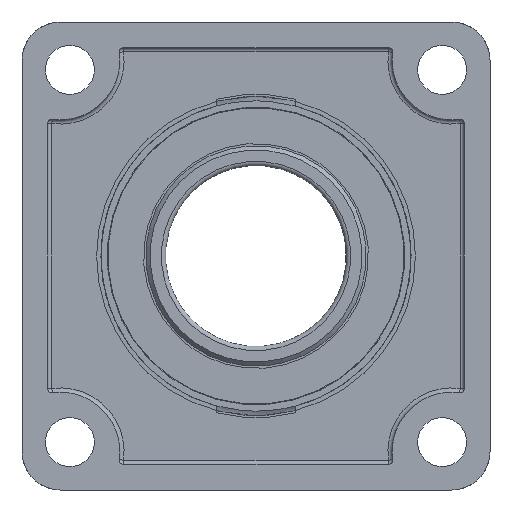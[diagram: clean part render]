
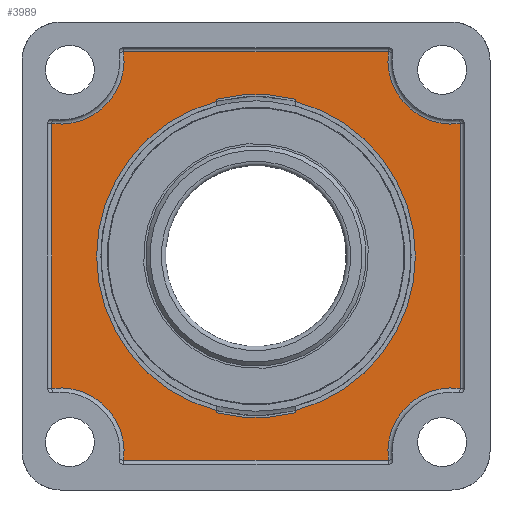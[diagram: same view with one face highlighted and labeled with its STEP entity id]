
A CAD part, front view. The second image highlights one B-rep face of the part: STEP entity #3989.
In plain terms, the highlighted planar face has unit normal (0, -1, 0).
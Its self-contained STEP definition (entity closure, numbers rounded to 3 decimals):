
#230=FACE_BOUND('',#582,.T.);
#345=FACE_OUTER_BOUND('',#581,.T.);
#581=EDGE_LOOP('',(#2641,#2642,#2643,#2644,#2645,#2646,#2647,#2648));
#582=EDGE_LOOP('',(#2649,#2650,#2651,#2652,#2653,#2654,#2655,#2656));
#853=CIRCLE('',#4306,76.);
#856=CIRCLE('',#4311,30.);
#857=CIRCLE('',#4312,30.);
#858=CIRCLE('',#4313,30.);
#859=CIRCLE('',#4314,30.);
#860=CIRCLE('',#4315,74.93);
#861=CIRCLE('',#4316,76.);
#862=CIRCLE('',#4317,74.93);
#1240=LINE('',#6343,#1390);
#1248=LINE('',#6363,#1398);
#1249=LINE('',#6372,#1399);
#1250=LINE('',#6376,#1400);
#1251=LINE('',#6380,#1401);
#1252=LINE('',#6384,#1402);
#1253=LINE('',#6389,#1403);
#1254=LINE('',#6393,#1404);
#1390=VECTOR('',#4935,10.);
#1398=VECTOR('',#4949,10.);
#1399=VECTOR('',#4962,10.);
#1400=VECTOR('',#4965,10.);
#1401=VECTOR('',#4968,10.);
#1402=VECTOR('',#4971,10.);
#1403=VECTOR('',#4976,10.);
#1404=VECTOR('',#4979,10.);
#1539=VERTEX_POINT('',#6339);
#1541=VERTEX_POINT('',#6342);
#1546=VERTEX_POINT('',#6353);
#1550=VERTEX_POINT('',#6361);
#1551=VERTEX_POINT('',#6370);
#1552=VERTEX_POINT('',#6371);
#1553=VERTEX_POINT('',#6373);
#1554=VERTEX_POINT('',#6375);
#1555=VERTEX_POINT('',#6377);
#1556=VERTEX_POINT('',#6379);
#1557=VERTEX_POINT('',#6381);
#1558=VERTEX_POINT('',#6383);
#1559=VERTEX_POINT('',#6386);
#1560=VERTEX_POINT('',#6388);
#1561=VERTEX_POINT('',#6390);
#1562=VERTEX_POINT('',#6392);
#1986=EDGE_CURVE('',#1541,#1539,#1240,.T.);
#1996=EDGE_CURVE('',#1546,#1550,#1248,.T.);
#1997=EDGE_CURVE('',#1550,#1541,#853,.T.);
#2000=EDGE_CURVE('',#1551,#1552,#1249,.T.);
#2001=EDGE_CURVE('',#1553,#1551,#856,.T.);
#2002=EDGE_CURVE('',#1554,#1553,#1250,.T.);
#2003=EDGE_CURVE('',#1555,#1554,#857,.T.);
#2004=EDGE_CURVE('',#1556,#1555,#1251,.T.);
#2005=EDGE_CURVE('',#1557,#1556,#858,.T.);
#2006=EDGE_CURVE('',#1558,#1557,#1252,.T.);
#2007=EDGE_CURVE('',#1552,#1558,#859,.T.);
#2008=EDGE_CURVE('',#1559,#1539,#860,.T.);
#2009=EDGE_CURVE('',#1559,#1560,#1253,.T.);
#2010=EDGE_CURVE('',#1560,#1561,#861,.T.);
#2011=EDGE_CURVE('',#1561,#1562,#1254,.T.);
#2012=EDGE_CURVE('',#1546,#1562,#862,.T.);
#2641=ORIENTED_EDGE('',*,*,#2000,.F.);
#2642=ORIENTED_EDGE('',*,*,#2001,.F.);
#2643=ORIENTED_EDGE('',*,*,#2002,.F.);
#2644=ORIENTED_EDGE('',*,*,#2003,.F.);
#2645=ORIENTED_EDGE('',*,*,#2004,.F.);
#2646=ORIENTED_EDGE('',*,*,#2005,.F.);
#2647=ORIENTED_EDGE('',*,*,#2006,.F.);
#2648=ORIENTED_EDGE('',*,*,#2007,.F.);
#2649=ORIENTED_EDGE('',*,*,#1996,.T.);
#2650=ORIENTED_EDGE('',*,*,#1997,.T.);
#2651=ORIENTED_EDGE('',*,*,#1986,.T.);
#2652=ORIENTED_EDGE('',*,*,#2008,.F.);
#2653=ORIENTED_EDGE('',*,*,#2009,.T.);
#2654=ORIENTED_EDGE('',*,*,#2010,.T.);
#2655=ORIENTED_EDGE('',*,*,#2011,.T.);
#2656=ORIENTED_EDGE('',*,*,#2012,.F.);
#3896=PLANE('',#4310);
#3989=ADVANCED_FACE('',(#345,#230),#3896,.T.);
#4306=AXIS2_PLACEMENT_3D('',#6365,#4952,#4953);
#4310=AXIS2_PLACEMENT_3D('',#6369,#4960,#4961);
#4311=AXIS2_PLACEMENT_3D('',#6374,#4963,#4964);
#4312=AXIS2_PLACEMENT_3D('',#6378,#4966,#4967);
#4313=AXIS2_PLACEMENT_3D('',#6382,#4969,#4970);
#4314=AXIS2_PLACEMENT_3D('',#6385,#4972,#4973);
#4315=AXIS2_PLACEMENT_3D('',#6387,#4974,#4975);
#4316=AXIS2_PLACEMENT_3D('',#6391,#4977,#4978);
#4317=AXIS2_PLACEMENT_3D('',#6394,#4980,#4981);
#4935=DIRECTION('',(0.,0.,1.));
#4949=DIRECTION('',(0.,0.,-1.));
#4952=DIRECTION('center_axis',(0.,1.,0.));
#4953=DIRECTION('ref_axis',(0.243,0.,-0.97));
#4960=DIRECTION('center_axis',(0.,-1.,0.));
#4961=DIRECTION('ref_axis',(0.,0.,-1.));
#4962=DIRECTION('',(1.,0.,0.));
#4963=DIRECTION('center_axis',(0.,-1.,0.));
#4964=DIRECTION('ref_axis',(0.707,0.,-0.707));
#4965=DIRECTION('',(0.,0.,1.));
#4966=DIRECTION('center_axis',(0.,-1.,0.));
#4967=DIRECTION('ref_axis',(0.707,0.,0.707));
#4968=DIRECTION('',(-1.,0.,0.));
#4969=DIRECTION('center_axis',(0.,-1.,0.));
#4970=DIRECTION('ref_axis',(-0.707,0.,0.707));
#4971=DIRECTION('',(0.,0.,-1.));
#4972=DIRECTION('center_axis',(0.,-1.,0.));
#4973=DIRECTION('ref_axis',(-0.707,0.,-0.707));
#4974=DIRECTION('center_axis',(0.,-1.,0.));
#4975=DIRECTION('ref_axis',(1.,0.,0.));
#4976=DIRECTION('',(0.,0.,1.));
#4977=DIRECTION('center_axis',(0.,1.,0.));
#4978=DIRECTION('ref_axis',(0.243,0.,0.97));
#4979=DIRECTION('',(0.,0.,-1.));
#4980=DIRECTION('center_axis',(0.,-1.,0.));
#4981=DIRECTION('ref_axis',(1.,0.,0.));
#6339=CARTESIAN_POINT('',(-18.5,10.,-72.61));
#6342=CARTESIAN_POINT('',(-18.5,10.,-73.714));
#6343=CARTESIAN_POINT('',(-18.5,10.,-27.377));
#6353=CARTESIAN_POINT('',(18.5,10.,-72.61));
#6361=CARTESIAN_POINT('',(18.5,10.,-73.714));
#6363=CARTESIAN_POINT('',(18.5,10.,-36.857));
#6365=CARTESIAN_POINT('Origin',(0.,10.,0.));
#6369=CARTESIAN_POINT('Origin',(0.,10.,0.));
#6370=CARTESIAN_POINT('',(-62.268,10.,96.));
#6371=CARTESIAN_POINT('',(62.268,10.,96.));
#6372=CARTESIAN_POINT('',(-32.325,10.,96.));
#6373=CARTESIAN_POINT('',(-96.,10.,62.268));
#6374=CARTESIAN_POINT('Origin',(-92.,10.,92.));
#6375=CARTESIAN_POINT('',(-96.,10.,-62.268));
#6376=CARTESIAN_POINT('',(-96.,10.,-32.325));
#6377=CARTESIAN_POINT('',(-62.268,10.,-96.));
#6378=CARTESIAN_POINT('Origin',(-92.,10.,-92.));
#6379=CARTESIAN_POINT('',(62.268,10.,-96.));
#6380=CARTESIAN_POINT('',(32.325,10.,-96.));
#6381=CARTESIAN_POINT('',(96.,10.,-62.268));
#6382=CARTESIAN_POINT('Origin',(92.,10.,-92.));
#6383=CARTESIAN_POINT('',(96.,10.,62.268));
#6384=CARTESIAN_POINT('',(96.,10.,32.325));
#6385=CARTESIAN_POINT('Origin',(92.,10.,92.));
#6386=CARTESIAN_POINT('',(-18.5,10.,72.61));
#6387=CARTESIAN_POINT('Origin',(0.,10.,0.));
#6388=CARTESIAN_POINT('',(-18.5,10.,73.714));
#6389=CARTESIAN_POINT('',(-18.5,10.,27.377));
#6390=CARTESIAN_POINT('',(18.5,10.,73.714));
#6391=CARTESIAN_POINT('Origin',(0.,10.,0.));
#6392=CARTESIAN_POINT('',(18.5,10.,72.61));
#6393=CARTESIAN_POINT('',(18.5,10.,36.857));
#6394=CARTESIAN_POINT('Origin',(0.,10.,0.));
